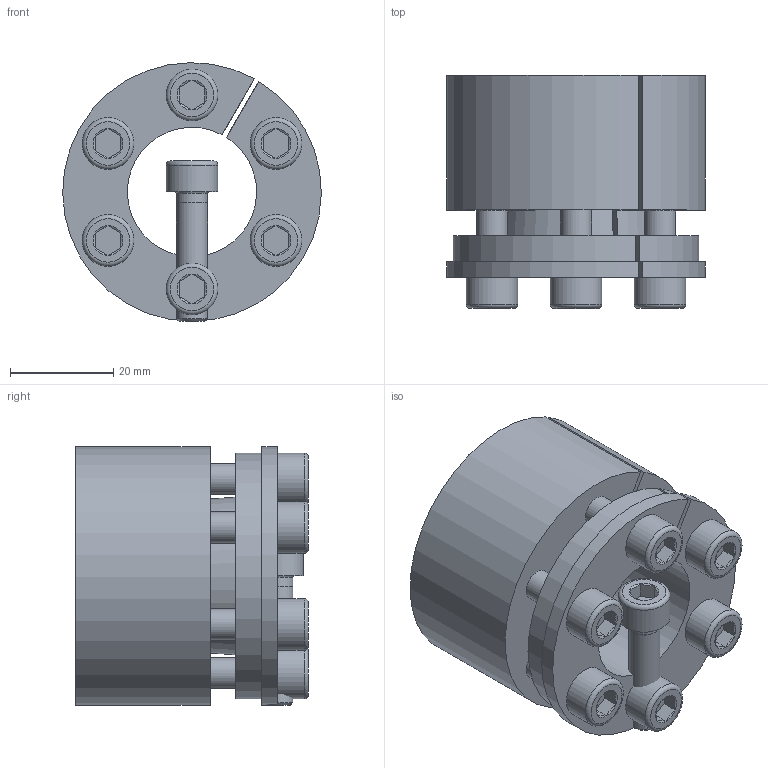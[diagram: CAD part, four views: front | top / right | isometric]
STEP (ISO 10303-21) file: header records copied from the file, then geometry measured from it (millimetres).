
FILE_DESCRIPTION( ( 'Unknown' ), '1' );
FILE_NAME( 'C:/Dokumente und Einstellungen/Sven/Desktop/homepage/cad - homepage/KBS70/KBS 70 - 25 x 50.stp', 'Unknown', ( 'Unknown' ), ( 'Unknown' ), 'XStep 1.0', 'Unknown', ' ' );
FILE_SCHEMA( ( 'automotive_design' ) );
Length unit declared in the file: millimetre
Products named in the file (3): Assem1; KBS 70 - 25 x 50; ISO EN DIN 4762 M6x25
Bounding box: 50 x 45 x 50 mm (x, y, z)
Volume: 95504.3 mm3; surface area: 42495.7 mm2
Topology: 9 solids, 9 shells, 227 faces, 467 edges, 286 vertices
Faces by surface type: plane 100, cylinder 60, cone 53, torus 14
Full cylindrical faces by diameter (mm): 5 x7, 6 x38, 10 x7
Entity records: 1694 total; most frequent: CARTESIAN_POINT 283, DIRECTION 256, ORIENTED_EDGE 190, AXIS2_PLACEMENT_3D 112, EDGE_LOOP 98, EDGE_CURVE 95, VERTEX_POINT 71, FACE_OUTER_BOUND 69
